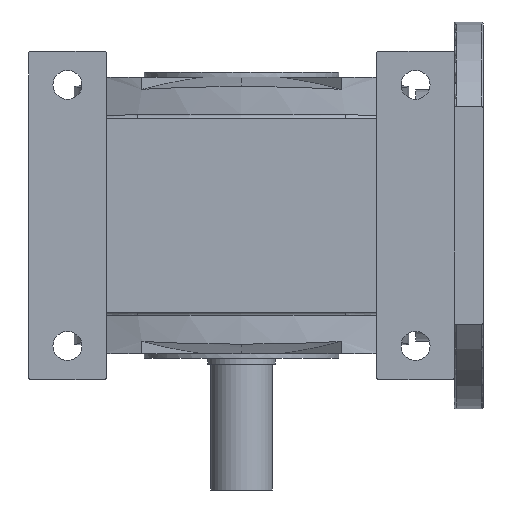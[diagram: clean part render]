
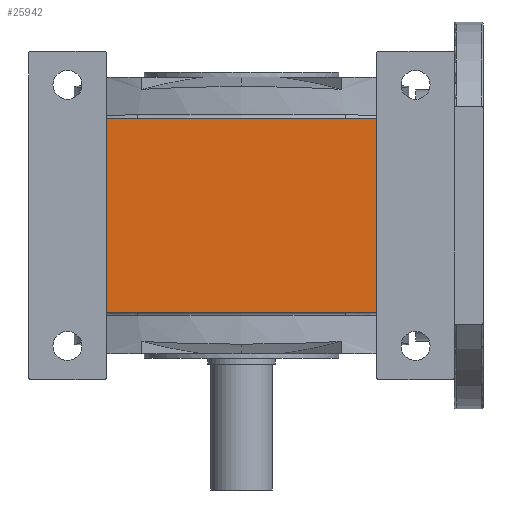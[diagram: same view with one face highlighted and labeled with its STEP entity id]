
A CAD part, front view. The second image highlights one B-rep face of the part: STEP entity #25942.
In plain terms, the highlighted planar face has unit normal (0, -1, 0).
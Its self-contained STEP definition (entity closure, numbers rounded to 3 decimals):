
#6370 = VERTEX_POINT ( 'NONE', #36152 ) ;
#7575 = CARTESIAN_POINT ( 'NONE',  ( -70., -150., 50. ) ) ;
#9941 = ORIENTED_EDGE ( 'NONE', *, *, #25691, .T. ) ;
#11242 = DIRECTION ( 'NONE',  ( 0., 0., -1. ) ) ;
#12381 = EDGE_CURVE ( 'NONE', #35980, #6370, #16373, .T. ) ;
#12838 = PLANE ( 'NONE',  #24294 ) ;
#13152 = DIRECTION ( 'NONE',  ( 0., 0., 1. ) ) ;
#13585 = EDGE_CURVE ( 'NONE', #6370, #37444, #25480, .T. ) ;
#14639 = CARTESIAN_POINT ( 'NONE',  ( -70., -150., -50. ) ) ;
#16373 = LINE ( 'NONE', #37177, #27516 ) ;
#17894 = EDGE_CURVE ( 'NONE', #25512, #37444, #20274, .T. ) ;
#18820 = CARTESIAN_POINT ( 'NONE',  ( -90., -150., -50. ) ) ;
#20274 = LINE ( 'NONE', #22367, #24643 ) ;
#22367 = CARTESIAN_POINT ( 'NONE',  ( -90., -150., 50. ) ) ;
#22493 = DIRECTION ( 'NONE',  ( 0., -1., 0. ) ) ;
#22670 = CARTESIAN_POINT ( 'NONE',  ( 70., -150., -50. ) ) ;
#24294 = AXIS2_PLACEMENT_3D ( 'NONE', #18820, #22493, #31673 ) ;
#24549 = LINE ( 'NONE', #14639, #36188 ) ;
#24643 = VECTOR ( 'NONE', #28334, 1000. ) ;
#25480 = LINE ( 'NONE', #22670, #40079 ) ;
#25512 = VERTEX_POINT ( 'NONE', #7575 ) ;
#25691 = EDGE_CURVE ( 'NONE', #25512, #35980, #24549, .T. ) ;
#25942 = ADVANCED_FACE ( 'NONE', ( #28406 ), #12838, .T. ) ;
#27516 = VECTOR ( 'NONE', #36651, 1000. ) ;
#28334 = DIRECTION ( 'NONE',  ( 1., 0., 0. ) ) ;
#28406 = FACE_OUTER_BOUND ( 'NONE', #38019, .T. ) ;
#30754 = CARTESIAN_POINT ( 'NONE',  ( 70., -150., 50. ) ) ;
#30966 = CARTESIAN_POINT ( 'NONE',  ( -70., -150., -50. ) ) ;
#31673 = DIRECTION ( 'NONE',  ( 0., 0., -1. ) ) ;
#32655 = ORIENTED_EDGE ( 'NONE', *, *, #17894, .F. ) ;
#34315 = ORIENTED_EDGE ( 'NONE', *, *, #13585, .T. ) ;
#35980 = VERTEX_POINT ( 'NONE', #30966 ) ;
#36152 = CARTESIAN_POINT ( 'NONE',  ( 70., -150., -50. ) ) ;
#36188 = VECTOR ( 'NONE', #11242, 1000. ) ;
#36651 = DIRECTION ( 'NONE',  ( 1., 0., 0. ) ) ;
#37177 = CARTESIAN_POINT ( 'NONE',  ( -90., -150., -50. ) ) ;
#37444 = VERTEX_POINT ( 'NONE', #30754 ) ;
#38019 = EDGE_LOOP ( 'NONE', ( #38776, #34315, #32655, #9941 ) ) ;
#38776 = ORIENTED_EDGE ( 'NONE', *, *, #12381, .T. ) ;
#40079 = VECTOR ( 'NONE', #13152, 1000. ) ;
